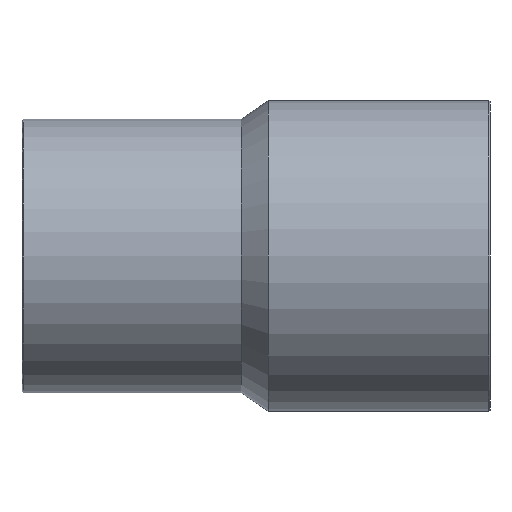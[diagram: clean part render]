
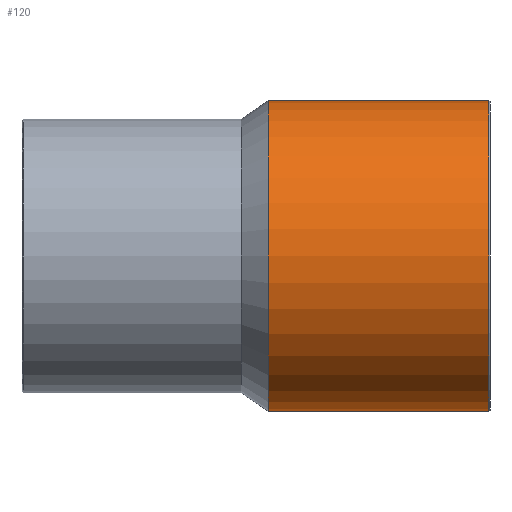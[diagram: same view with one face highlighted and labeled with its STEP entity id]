
A CAD part, front view. The second image highlights one B-rep face of the part: STEP entity #120.
In plain terms, the highlighted cylindrical face has radius 62.5 mm (diameter 125 mm), a full revolution.
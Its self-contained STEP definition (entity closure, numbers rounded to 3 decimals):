
#26=ORIENTED_EDGE('',*,*,#46,.T.);
#27=ORIENTED_EDGE('',*,*,#47,.F.);
#46=EDGE_CURVE('',#56,#56,#66,.T.);
#47=EDGE_CURVE('',#57,#57,#67,.T.);
#56=VERTEX_POINT('',#208);
#57=VERTEX_POINT('',#210);
#66=CIRCLE('',#144,62.5);
#67=CIRCLE('',#145,62.5);
#76=EDGE_LOOP('',(#26));
#77=EDGE_LOOP('',(#27));
#96=FACE_BOUND('',#76,.T.);
#97=FACE_BOUND('',#77,.T.);
#116=CYLINDRICAL_SURFACE('',#143,62.5);
#120=ADVANCED_FACE('',(#96,#97),#116,.T.);
#143=AXIS2_PLACEMENT_3D('',#206,#165,#166);
#144=AXIS2_PLACEMENT_3D('',#207,#167,#168);
#145=AXIS2_PLACEMENT_3D('',#209,#169,#170);
#165=DIRECTION('',(-1.,0.,0.));
#166=DIRECTION('',(0.,0.,1.));
#167=DIRECTION('',(-1.,0.,0.));
#168=DIRECTION('',(0.,0.,1.));
#169=DIRECTION('',(-1.,0.,0.));
#170=DIRECTION('',(0.,0.,1.));
#206=CARTESIAN_POINT('',(-60.,0.,0.));
#207=CARTESIAN_POINT('',(94.,0.,0.));
#208=CARTESIAN_POINT('',(94.,0.,62.5));
#209=CARTESIAN_POINT('',(5.5,0.,0.));
#210=CARTESIAN_POINT('',(5.5,0.,62.5));
